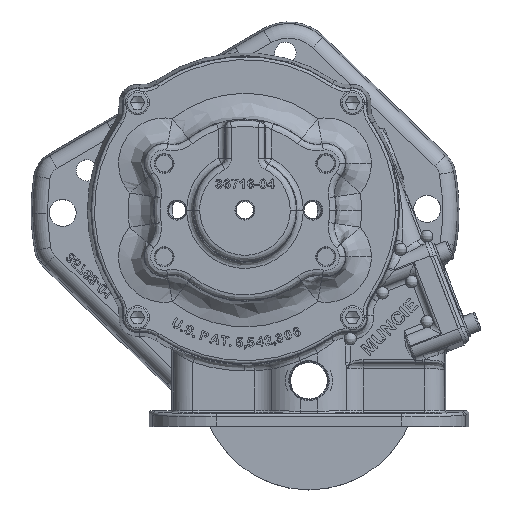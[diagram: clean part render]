
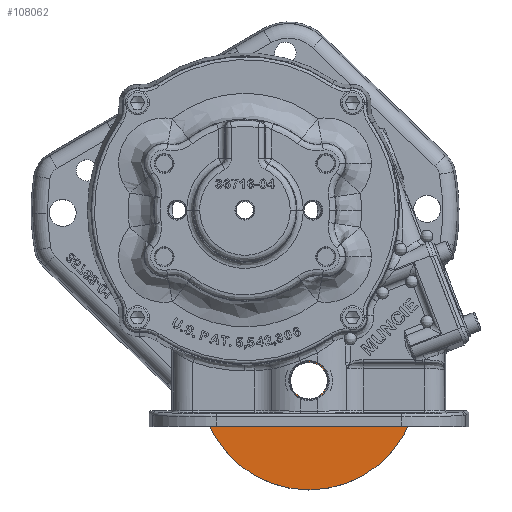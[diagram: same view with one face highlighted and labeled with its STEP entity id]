
A CAD part, top view. The second image highlights one B-rep face of the part: STEP entity #108062.
In plain terms, the highlighted planar face has unit normal (0, 0, 1).
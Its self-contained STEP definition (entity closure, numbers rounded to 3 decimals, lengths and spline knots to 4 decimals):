
#5222 = CIRCLE ( 'NONE', #5225, 0.3595 ) ;
#5225 = AXIS2_PLACEMENT_3D ( 'NONE', #72676, #72679, #72682 ) ;
#5241 = AXIS2_PLACEMENT_3D ( 'NONE', #72341, #72344, #72347 ) ;
#5383 = AXIS2_PLACEMENT_3D ( 'NONE', #67835, #67870, #67872 ) ;
#24107 = ORIENTED_EDGE ( 'NONE', *, *, #107476, .F. ) ;
#24337 = ORIENTED_EDGE ( 'NONE', *, *, #107464, .T. ) ;
#31791 = EDGE_LOOP ( 'NONE', ( #24337, #117786 ) ) ;
#31797 = EDGE_LOOP ( 'NONE', ( #117867, #24107 ) ) ;
#67835 = CARTESIAN_POINT ( 'NONE',  ( 0.2973, -1.4645, 1.7223 ) ) ;
#67861 = FACE_BOUND ( 'NONE', #31791, .T. ) ;
#67864 = FACE_OUTER_BOUND ( 'NONE', #31797, .T. ) ;
#67866 = PLANE ( 'NONE',  #5383 ) ;
#67870 = DIRECTION ( 'NONE',  ( 0., 0., -1. ) ) ;
#67872 = DIRECTION ( 'NONE',  ( 0., 1., 0. ) ) ;
#72125 = CARTESIAN_POINT ( 'NONE',  ( 0.2973, -1.4645, 1.7223 ) ) ;
#72127 = DIRECTION ( 'NONE',  ( 0., 0., -1. ) ) ;
#72130 = DIRECTION ( 'NONE',  ( 0., 1., 0. ) ) ;
#72199 = CARTESIAN_POINT ( 'NONE',  ( 0.2973, -1.4645, 1.7223 ) ) ;
#72201 = DIRECTION ( 'NONE',  ( 0., 0., -1. ) ) ;
#72204 = DIRECTION ( 'NONE',  ( 0., 1., 0. ) ) ;
#72341 = CARTESIAN_POINT ( 'NONE',  ( 0.2973, -1.4645, 1.7223 ) ) ;
#72344 = DIRECTION ( 'NONE',  ( 0., 0., -1. ) ) ;
#72347 = DIRECTION ( 'NONE',  ( 0., 1., 0. ) ) ;
#72676 = CARTESIAN_POINT ( 'NONE',  ( 0.2973, -1.4645, 1.7223 ) ) ;
#72679 = DIRECTION ( 'NONE',  ( 0., 0., -1. ) ) ;
#72682 = DIRECTION ( 'NONE',  ( 0., 1., 0. ) ) ;
#72823 = CIRCLE ( 'NONE', #5241, 2.135 ) ;
#72864 = AXIS2_PLACEMENT_3D ( 'NONE', #72199, #72201, #72204 ) ;
#72866 = AXIS2_PLACEMENT_3D ( 'NONE', #72125, #72127, #72130 ) ;
#72872 = CIRCLE ( 'NONE', #72866, 0.3595 ) ;
#73058 = CIRCLE ( 'NONE', #72864, 2.135 ) ;
#77996 = CARTESIAN_POINT ( 'NONE',  ( 0.2973, -3.5995, 1.7223 ) ) ;
#77997 = CARTESIAN_POINT ( 'NONE',  ( 0.2973, 0.6705, 1.7223 ) ) ;
#78023 = CARTESIAN_POINT ( 'NONE',  ( 0.2973, -1.824, 1.7223 ) ) ;
#78025 = CARTESIAN_POINT ( 'NONE',  ( 0.2973, -1.105, 1.7223 ) ) ;
#107464 = EDGE_CURVE ( 'NONE', #142895, #142893, #72872, .T. ) ;
#107466 = EDGE_CURVE ( 'NONE', #142863, #142865, #73058, .T. ) ;
#107476 = EDGE_CURVE ( 'NONE', #142865, #142863, #72823, .T. ) ;
#107502 = EDGE_CURVE ( 'NONE', #142893, #142895, #5222, .T. ) ;
#108062 = ADVANCED_FACE ( 'NONE', ( #67861, #67864 ), #67866, .F. ) ;
#117786 = ORIENTED_EDGE ( 'NONE', *, *, #107502, .T. ) ;
#117867 = ORIENTED_EDGE ( 'NONE', *, *, #107466, .F. ) ;
#142863 = VERTEX_POINT ( 'NONE', #77996 ) ;
#142865 = VERTEX_POINT ( 'NONE', #77997 ) ;
#142893 = VERTEX_POINT ( 'NONE', #78023 ) ;
#142895 = VERTEX_POINT ( 'NONE', #78025 ) ;
